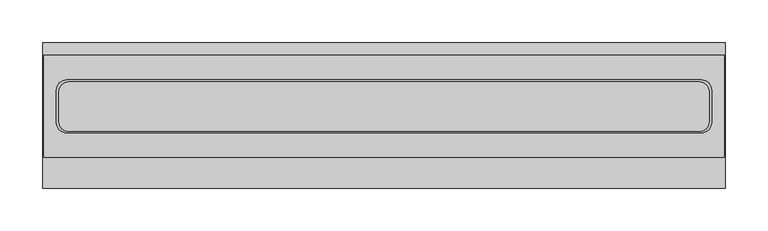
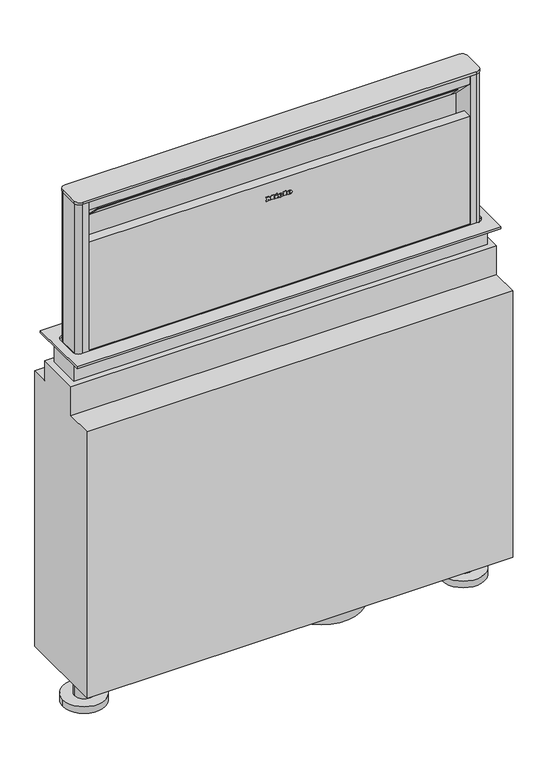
"""IFC4 building model written with IfcOpenShell, lengths in millimetres: proxy geometry, 12934690_D_DAD4870_OBSW : 28D4870B_D_12934690_DAD4870_OBSW."""

import ifcopenshell
import ifcopenshell.guid

model = None  # the IFC model being written
_history = None  # IfcOwnerHistory: only IFC2X3 demands one
_inside = {}  # id of a spatial element -> (the spatial element, [elements in it])
_under = {}  # id of a project, library or spatial element -> (it, [spatial elements below it])
_declared = {}  # id of a project -> (the project, [libraries it declares])
_typed = {}  # id of a type object -> (the type object, [elements of that type])
_made_of = {}  # id of a material, layer set ... -> (it, [elements and type objects made of it])


def new_model(schema):
    """Start an empty IFC model of exactly this schema.

    Asked for "IFC4X3", IfcOpenShell would pick the latest addendum, in which some entities
    have other attributes; the version numbers below select the first issue.
    IFC2X3 requires an IfcOwnerHistory on every rooted entity: one is made here for all.
    """
    global model, _history
    if schema == "IFC4X3":
        model = ifcopenshell.file(schema_version=(4, 3, 0, 0))
    else:
        model = ifcopenshell.file(schema=schema)
    _inside.clear()
    _under.clear()
    _declared.clear()
    _typed.clear()
    _made_of.clear()
    _history = None
    if model.schema == "IFC2X3":
        org = make("IfcOrganization", Name="unknown")
        user = make(
            "IfcPersonAndOrganization",
            ThePerson=make("IfcPerson", FamilyName="unknown"),
            TheOrganization=org,
        )
        app = make(
            "IfcApplication",
            ApplicationDeveloper=org,
            Version="unknown",
            ApplicationFullName="unknown",
            ApplicationIdentifier="unknown",
        )
        _history = make(
            "IfcOwnerHistory",
            OwningUser=user,
            OwningApplication=app,
            ChangeAction="ADDED",
            CreationDate=0,
        )
    return model


def make(cls, **values):
    """One entity of the class cls with the attributes given. An attribute that is None is left unset."""
    return model.create_entity(
        cls, **{name: value for name, value in values.items() if value is not None}
    )


def rooted(cls, **values):
    """An entity with a GlobalId (a new one), such as an element, a storey or a relation."""
    return make(cls, GlobalId=ifcopenshell.guid.new(), OwnerHistory=_history, **values)


def si_unit(unit_type, name, prefix=None):
    """IfcSIUnit, for example si_unit("LENGTHUNIT", "METRE", prefix="MILLI")."""
    return make("IfcSIUnit", UnitType=unit_type, Prefix=prefix, Name=name)


def assignment(units):
    """IfcUnitAssignment: the units of a project."""
    return None if units is None else make("IfcUnitAssignment", Units=units)


def point(xyz):
    """IfcCartesianPoint."""
    return None if xyz is None else make("IfcCartesianPoint", Coordinates=xyz)


def direction(xyz):
    """IfcDirection."""
    return None if xyz is None else make("IfcDirection", DirectionRatios=xyz)


def frame(location, z_axis=None, x_axis=None):
    """IfcAxis2Placement3D, a coordinate frame: its origin and axes. An axis left out is left unset."""
    return make(
        "IfcAxis2Placement3D",
        Location=point(location),
        Axis=direction(z_axis),
        RefDirection=direction(x_axis),
    )


def frame_2d(location, x_axis=None):
    """IfcAxis2Placement2D, a coordinate frame in the plane: its origin and x axis."""
    return make(
        "IfcAxis2Placement2D", Location=point(location), RefDirection=direction(x_axis)
    )


def origin():
    """The frame at (0, 0, 0) with its axes left unset."""
    return frame((0.0, 0.0, 0.0))


def origin_with_axes():
    """The frame at (0, 0, 0) with the z axis (0, 0, 1) and the x axis (1, 0, 0) written out."""
    return frame((0.0, 0.0, 0.0), z_axis=(0.0, 0.0, 1.0), x_axis=(1.0, 0.0, 0.0))


def place(relative_to, where):
    """IfcLocalPlacement: puts the frame where relative to a parent placement (None: the world)."""
    return make(
        "IfcLocalPlacement", PlacementRelTo=relative_to, RelativePlacement=where
    )


def context(
    kind, dimensions, precision=None, world=None, true_north=None, identifier=None
):
    """IfcGeometricRepresentationContext, for example the 3D "Model" context."""
    return make(
        "IfcGeometricRepresentationContext",
        ContextIdentifier=identifier,
        ContextType=kind,
        CoordinateSpaceDimension=dimensions,
        Precision=precision,
        WorldCoordinateSystem=world,
        TrueNorth=true_north,
    )


def project(units=None, contexts=None):
    """IfcProject with its units and contexts."""
    return rooted(
        "IfcProject",
        Name="project",
        RepresentationContexts=contexts,
        UnitsInContext=assignment(units),
    )


def spatial(cls, under=None, at=None, **own):
    """A site, building, storey or space (cls), placed at a placement, below another one or the project."""
    s = rooted(cls, ObjectPlacement=at, **own)
    if under is not None:
        _under.setdefault(under.id(), (under, []))[1].append(s)
    return s


def polyline(points):
    """IfcPolyline through the points."""
    return make("IfcPolyline", Points=[point(p) for p in points])


def circle_curve(where, radius):
    """IfcCircle in the frame where."""
    return make("IfcCircle", Position=where, Radius=radius)


def ellipse_curve(where, semi_axis1, semi_axis2):
    """IfcEllipse in the frame where."""
    return make(
        "IfcEllipse", Position=where, SemiAxis1=semi_axis1, SemiAxis2=semi_axis2
    )


def trimmed(basis, trim1, trim2, sense, master):
    """IfcTrimmedCurve: the piece of a basis curve between two trims."""
    return make(
        "IfcTrimmedCurve",
        BasisCurve=basis,
        Trim1=trim1,
        Trim2=trim2,
        SenseAgreement=sense,
        MasterRepresentation=master,
    )


def segment(curve, same_sense, transition):
    """IfcCompositeCurveSegment."""
    return make(
        "IfcCompositeCurveSegment",
        Transition=transition,
        SameSense=same_sense,
        ParentCurve=curve,
    )


def composite_curve(segments, self_intersect=None):
    """IfcCompositeCurve: segments joined end to end."""
    return make("IfcCompositeCurve", Segments=segments, SelfIntersect=self_intersect)


def outline(outer, holes=None, kind="AREA"):
    """IfcArbitraryClosedProfileDef: a profile drawn as a closed curve; with holes, ...WithVoids."""
    if holes is None:
        return make("IfcArbitraryClosedProfileDef", ProfileType=kind, OuterCurve=outer)
    return make(
        "IfcArbitraryProfileDefWithVoids",
        ProfileType=kind,
        OuterCurve=outer,
        InnerCurves=holes,
    )


def extrude(swept, where, along, depth):
    """IfcExtrudedAreaSolid: the profile swept, set in the frame where, extruded along a direction by depth."""
    return make(
        "IfcExtrudedAreaSolid",
        SweptArea=swept,
        Position=where,
        ExtrudedDirection=direction(along),
        Depth=depth,
    )


def faces_of(points, faces, orient=None, outer=None):
    """IfcFace entities. A face is a list of loops; a loop is a list of indices into points, from 0.

    orient and outer hold one flag for each loop. By default every Orientation is true, the
    first loop of a face is its IfcFaceOuterBound and the others are IfcFaceBound.
    """
    made = []
    for i, loops in enumerate(faces):
        bounds = []
        for j, loop in enumerate(loops):
            is_outer = j == 0 if outer is None else outer[i][j]
            bounds.append(
                make(
                    "IfcFaceOuterBound" if is_outer else "IfcFaceBound",
                    Bound=make("IfcPolyLoop", Polygon=[points[k] for k in loop]),
                    Orientation=True if orient is None else orient[i][j],
                )
            )
        made.append(make("IfcFace", Bounds=bounds))
    return made


def faceted_brep(points, faces, orient=None, outer=None, voids=None):
    """IfcFacetedBrep: a solid bounded by flat faces; with voids (closed shells), ...WithVoids."""
    shared = [point(p) for p in points]
    hull = make("IfcClosedShell", CfsFaces=faces_of(shared, faces, orient, outer))
    if voids is None:
        return make("IfcFacetedBrep", Outer=hull)
    return make(
        "IfcFacetedBrepWithVoids",
        Outer=hull,
        Voids=[
            make(cls, CfsFaces=faces_of(shared, fs, o, b)) for cls, fs, o, b in voids
        ],
    )


def shape(context_of_items, identifier, shape_type, items):
    """IfcShapeRepresentation: the items that make up one representation, for example the "Body"."""
    return make(
        "IfcShapeRepresentation",
        ContextOfItems=context_of_items,
        RepresentationIdentifier=identifier,
        RepresentationType=shape_type,
        Items=items,
    )


def source(mapping_origin, context_of_items, identifier, shape_type, items):
    """IfcRepresentationMap: a shape defined once, which mapped items show again and again."""
    return make(
        "IfcRepresentationMap",
        MappingOrigin=mapping_origin,
        MappedRepresentation=shape(context_of_items, identifier, shape_type, items),
    )


def transform(
    local_origin,
    x_axis=None,
    y_axis=None,
    z_axis=None,
    scale=None,
    scale2=None,
    scale3=None,
    uniform=True,
):
    """IfcCartesianTransformationOperator3D, or its non-uniform kind. x_axis, y_axis, z_axis: its Axis1, 2, 3."""
    if uniform:
        return make(
            "IfcCartesianTransformationOperator3D",
            Axis1=direction(x_axis),
            Axis2=direction(y_axis),
            LocalOrigin=point(local_origin),
            Scale=scale,
            Axis3=direction(z_axis),
        )
    return make(
        "IfcCartesianTransformationOperator3DnonUniform",
        Axis1=direction(x_axis),
        Axis2=direction(y_axis),
        LocalOrigin=point(local_origin),
        Scale=scale,
        Axis3=direction(z_axis),
        Scale2=scale2,
        Scale3=scale3,
    )


def mapped(mapping_source, mapping_target):
    """IfcMappedItem: shows the shape of a source again, moved by a transform."""
    return make(
        "IfcMappedItem", MappingSource=mapping_source, MappingTarget=mapping_target
    )


def made_of(thing, what):
    """Note that an element or type object is made of a material, layer set ...; save() writes the relation."""
    if what is not None:
        _made_of.setdefault(what.id(), (what, []))[1].append(thing)
    return thing


def element(
    cls,
    number,
    at=None,
    inside=None,
    cuts=None,
    type_object=None,
    material=None,
    context=None,
    identifier="Body",
    shape_type=None,
    held_by="IfcProductDefinitionShape",
    body=None,
    shapes=None,
    **own,
):
    """One element of the class cls, such as IfcWall. Its Tag is "e" and its number.

    at: its placement. inside: the storey or other place that contains it. cuts: it is an
    opening in that element (IfcRelVoidsElement). A single representation is given by context,
    identifier, shape_type and body (its items); several are given by shapes. held_by: the class
    of the entity that holds the representations. save() writes the other relations.
    """
    e = rooted(cls, Tag="e%d" % number, ObjectPlacement=at, **own)
    if body is not None:
        shapes = [shape(context, identifier, shape_type, body)]
    if shapes is not None:
        e.Representation = make(held_by, Representations=shapes)
    if inside is not None:
        _inside.setdefault(inside.id(), (inside, []))[1].append(e)
    if cuts is not None:
        rooted(
            "IfcRelVoidsElement", RelatingBuildingElement=cuts, RelatedOpeningElement=e
        )
    if type_object is not None:
        _typed.setdefault(type_object.id(), (type_object, []))[1].append(e)
    return made_of(e, material)


def aggregate(whole, parts):
    """IfcRelAggregates: a whole, such as a stair, and the parts it consists of."""
    return rooted("IfcRelAggregates", RelatingObject=whole, RelatedObjects=parts)


def save(model, path):
    """Write the relations noted so far, then the file.

    IfcRelAggregates (storeys below a building ...), IfcRelContainedInSpatialStructure (elements
    in a storey), IfcRelDefinesByType, IfcRelAssociatesMaterial and IfcRelDeclares: one each for
    every whole, place, type object, material and project.
    """
    for whole, parts in _under.values():
        aggregate(whole, parts)
    for where, things in _inside.values():
        rooted(
            "IfcRelContainedInSpatialStructure",
            RelatedElements=things,
            RelatingStructure=where,
        )
    for kind, things in _typed.values():
        rooted("IfcRelDefinesByType", RelatedObjects=things, RelatingType=kind)
    for what, things in _made_of.values():
        rooted("IfcRelAssociatesMaterial", RelatedObjects=things, RelatingMaterial=what)
    for by, libraries in _declared.values():
        rooted("IfcRelDeclares", RelatingContext=by, RelatedDefinitions=libraries)
    model.write(path)


def plane_surface(at):
    """IfcPlane: the flat surface through the origin of the frame at, square to its z axis."""
    return make("IfcPlane", Position=at)


def cylinder_surface(at, radius):
    """IfcCylindricalSurface: all points at the distance radius from the z axis of the frame at."""
    return make("IfcCylindricalSurface", Position=at, Radius=radius)


def revolved_surface(curve, axis_point, axis_direction):
    """IfcSurfaceOfRevolution: the curve turned about the line through axis_point along axis_direction."""
    return make(
        "IfcSurfaceOfRevolution",
        SweptCurve=make("IfcArbitraryOpenProfileDef", ProfileType="CURVE", Curve=curve),
        AxisPosition=make("IfcAxis1Placement", Location=point(axis_point), Axis=direction(axis_direction)),
    )


def extruded_surface(curve, direction_of_extrusion, depth):
    """IfcSurfaceOfLinearExtrusion: the curve pushed along a direction by depth."""
    return make(
        "IfcSurfaceOfLinearExtrusion",
        SweptCurve=make("IfcArbitraryOpenProfileDef", ProfileType="CURVE", Curve=curve),
        ExtrudedDirection=direction(direction_of_extrusion),
        Depth=depth,
    )


def advanced_brep(points, edges, surfaces, faces):
    """IfcAdvancedBrep: a solid bounded by faces that lie on surfaces and meet in shared edges.

    An edge is (start, end): straight between two places in points (the first is 0);
    or (start, end, curve); or (start, end, curve, False) where it runs against its curve.
    A face is (place in surfaces, loops), or (place, loops, False) where it looks against
    its surface's normal. A loop lists edges by number (the first is 1), with a minus sign
    where the edge is run from its end to its start. The first loop is the outer one.
    """
    corners = [point(p) for p in points]
    vertices = [make("IfcVertexPoint", VertexGeometry=c) for c in corners]
    made = []
    for start, end, *more in edges:
        made.append(
            make(
                "IfcEdgeCurve",
                EdgeStart=vertices[start],
                EdgeEnd=vertices[end],
                EdgeGeometry=more[0] if more else make("IfcPolyline", Points=[corners[start], corners[end]]),
                SameSense=more[1] if len(more) > 1 else True,
            )
        )
    hull = []
    for where, loops, *sense in faces:
        bounds = []
        for j, loop in enumerate(loops):
            ring = [make("IfcOrientedEdge", EdgeElement=made[abs(k) - 1], Orientation=k > 0) for k in loop]
            bounds.append(
                make(
                    "IfcFaceOuterBound" if j == 0 else "IfcFaceBound",
                    Bound=make("IfcEdgeLoop", EdgeList=ring),
                    Orientation=True,
                )
            )
        hull.append(make("IfcAdvancedFace", Bounds=bounds, FaceSurface=surfaces[where], SameSense=sense[0] if sense else True))
    return make("IfcAdvancedBrep", Outer=make("IfcClosedShell", CfsFaces=hull))


def specialty_equipment_19cf30e8(model_context):
    return source(origin(), model_context, "Body", "SolidModel", [
        extrude(outline(polyline([(190.696, -25.0), (190.696, -24.032), (185.344, -24.032), (185.344, -25.0), (184.0, -25.0), (184.0, -21.48), (185.344, -21.48), (185.344, -22.44), (188.7471247, -22.44), (184.0, -18.864), (188.8152223, -15.272), (185.344, -15.272), (185.344, -16.256), (184.0, -16.256), (184.0, -9.872), (185.344, -9.872), (185.344, -10.888), (190.696, -10.888), (190.696, -9.872), (192.0, -9.872), (192.0, -14.744), (189.0, -17.08), (192.0, -19.424), (192.0, -25.0), (190.696, -25.0)])), frame((0.0, -104.0, 0.0), z_axis=(0.0, 1.0, 0.0), x_axis=(0.0, 0.0, 1.0)), (0.0, 0.0, 1.0), 1.0),
        extrude(outline(polyline([(190.696, 7.464), (190.696, 8.424), (185.344, 8.424), (185.344, 7.464), (184.0, 7.464), (184.0, 13.952), (185.344, 13.952), (185.344, 12.968), (192.0, 12.968), (192.0, 7.464), (190.696, 7.464)])), frame((0.0, -104.0, 0.0), z_axis=(0.0, 1.0, 0.0), x_axis=(0.0, 0.0, 1.0)), (0.0, 0.0, 1.0), 1.0),
        extrude(outline(polyline([(191.528, -7.08), (190.232, -6.472), (191.496, -3.76), (192.792, -4.36), (191.528, -7.08)])), frame((0.0, -104.0, 0.0), z_axis=(0.0, 1.0, 0.0), x_axis=(0.0, 0.0, 1.0)), (0.0, 0.0, 1.0), 1.0),
        extrude(outline(polyline([(190.056, -9.056), (188.624, -9.056), (188.624, -8.104), (185.344, -8.104), (185.344, -9.056), (184.0, -9.056), (184.0, -2.744), (185.344, -2.744), (185.344, -3.672), (190.056, -3.672), (190.056, -9.056)])), frame((0.0, -104.0, 0.0), z_axis=(0.0, 1.0, 0.0), x_axis=(0.0, 0.0, 1.0)), (0.0, 0.0, 1.0), 1.0),
        advanced_brep(
        [(1.664, -104.0, 185.896), (1.664, -104.0, 186.704), (7.016, -104.0, 186.704), (-2.296, -104.0, 186.704), (-0.096, -104.0, 184.0), (6.88, -104.0, 185.896), (4.464, -104.0, 185.896), (2.56, -104.0, 185.0), (1.664, -104.0, 187.728), (1.664, -104.0, 188.6), (3.032, -104.0, 188.6), (3.032, -104.0, 187.728), (1.664, -103.0, 185.896), (2.56, -103.0, 185.0), (4.464, -103.0, 185.896), (6.88, -103.0, 185.896), (-0.096, -103.0, 184.0), (-2.296, -103.0, 186.704), (7.016, -103.0, 186.704), (1.664, -103.0, 186.704), (1.664, -103.0, 187.728), (3.032, -103.0, 187.728), (3.032, -103.0, 188.6), (1.664, -103.0, 188.6)],
        [
            (0, 1),
            (1, 2),
            (2, 3, ellipse_curve(frame((2.36, -104.0, 186.704), z_axis=(0.0, -1.0, 0.0), x_axis=(-1.0, 0.0, 0.0)), 4.656, 3.848)),
            (3, 4, circle_curve(frame((0.8000436, -104.0, 186.976), z_axis=(0.0, -1.0, 0.0), x_axis=(0.0, 0.0, -1.0)), 3.1079688)),
            (4, 5, circle_curve(frame((2.2667936, -104.0, 189.088), z_axis=(0.0, -1.0, 0.0), x_axis=(0.0, 0.0, -1.0)), 5.6098607)),
            (5, 6),
            (6, 7, circle_curve(frame((2.9510588, -104.0, 186.64), z_axis=(0.0, 1.0, 0.0), x_axis=(0.0, 0.0, -1.0)), 1.6859795)),
            (7, 0, circle_curve(frame((2.56, -104.0, 185.896), z_axis=(0.0, 1.0, 0.0), x_axis=(0.0, 0.0, -1.0)), 0.896)),
            (8, 9),
            (9, 10, circle_curve(frame((2.348, -104.0, 188.6), z_axis=(0.0, 1.0, 0.0), x_axis=(0.0, 0.0, -1.0)), 0.684)),
            (10, 11),
            (11, 8),
            (12, 13, circle_curve(frame((2.56, -103.0, 185.896), z_axis=(0.0, -1.0, 0.0), x_axis=(0.0, 0.0, -1.0)), 0.896)),
            (13, 14, circle_curve(frame((2.9510588, -103.0, 186.64), z_axis=(0.0, -1.0, 0.0), x_axis=(0.0, 0.0, -1.0)), 1.6859795)),
            (14, 15),
            (15, 16, circle_curve(frame((2.2667936, -103.0, 189.088), z_axis=(0.0, 1.0, 0.0), x_axis=(0.0, 0.0, -1.0)), 5.6098607)),
            (16, 17, circle_curve(frame((0.8000436, -103.0, 186.976), z_axis=(0.0, 1.0, 0.0), x_axis=(0.0, 0.0, -1.0)), 3.1079688)),
            (17, 18, ellipse_curve(frame((2.36, -103.0, 186.704), z_axis=(0.0, 1.0, 0.0), x_axis=(-1.0, 0.0, 0.0)), 4.656, 3.848)),
            (18, 19),
            (19, 12),
            (20, 21),
            (21, 22),
            (22, 23, circle_curve(frame((2.348, -103.0, 188.6), z_axis=(0.0, -1.0, 0.0), x_axis=(0.0, 0.0, -1.0)), 0.684)),
            (23, 20),
            (0, 12),
            (19, 1),
            (18, 2),
            (5, 15),
            (14, 6),
            (17, 3),
            (13, 7),
            (16, 4),
            (8, 20),
            (23, 9),
            (22, 10),
            (21, 11),
        ],
        [
            plane_surface(frame((1.664, -104.0, 186.704), z_axis=(0.0, -1.0, 0.0), x_axis=(0.0, 0.0, 1.0))),
            plane_surface(frame((1.664, -103.0, 186.704), z_axis=(0.0, 1.0, 0.0), x_axis=(0.0, 0.0, -1.0))),
            plane_surface(frame((1.664, -104.0, 185.896), z_axis=(1.0, 0.0, 0.0), x_axis=(0.0, 1.0, 0.0))),
            plane_surface(frame((1.664, -104.0, 186.704), z_axis=(0.0, 0.0, -1.0), x_axis=(0.0, 1.0, 0.0))),
            plane_surface(frame((6.88, -104.0, 185.896), z_axis=(0.0, 0.0, 1.0), x_axis=(0.0, 1.0, 0.0))),
            extruded_surface(trimmed(ellipse_curve(frame((2.36, -102.0, 186.704), z_axis=(0.0, -1.0, 0.0), x_axis=(-1.0, 0.0, 0.0)), 4.656, 3.848), [point((7.016, -102.0, 186.704))], [point((-2.296, -102.0, 186.704))], True, "CARTESIAN"), (0.0, -1.0, 0.0), 1.0),
            revolved_surface(polyline([(2.9510588, -103.0, 184.95402049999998), (2.9510588, -104.0, 184.95402049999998)]), (2.9510588, -103.0, 186.64), (0.0, 1.0, 0.0)),
            revolved_surface(polyline([(2.56, -103.0, 185.0), (2.56, -104.0, 185.0)]), (2.56, -103.0, 185.896), (0.0, 1.0, 0.0)),
            cylinder_surface(frame((0.8000436, -103.0, 186.976), z_axis=(0.0, -1.0, 0.0), x_axis=(0.0, 0.0, -1.0)), 3.1079688),
            cylinder_surface(frame((2.2667936, -103.0, 189.088), z_axis=(0.0, -1.0, 0.0), x_axis=(0.0, 0.0, -1.0)), 5.6098607),
            plane_surface(frame((1.664, -104.0, 187.728), z_axis=(1.0, 0.0, 0.0), x_axis=(0.0, 1.0, 0.0))),
            revolved_surface(polyline([(2.348, -103.0, 187.916), (2.348, -104.0, 187.916)]), (2.348, -103.0, 188.6), (0.0, 1.0, 0.0)),
            plane_surface(frame((3.032, -104.0, 188.6), z_axis=(-1.0, 0.0, 0.0), x_axis=(0.0, 1.0, 0.0))),
            plane_surface(frame((3.032, -104.0, 187.728), z_axis=(0.0, 0.0, 1.0), x_axis=(0.0, 1.0, 0.0))),
        ],
        [
            (0, [[1, 2, 3, 4, 5, 6, 7, 8], [9, 10, 11, 12]]),
            (1, [[13, 14, 15, 16, 17, 18, 19, 20], [21, 22, 23, 24]]),
            (2, [[-1, 25, -20, 26]]),
            (3, [[-2, -26, -19, 27]]),
            (4, [[-6, 28, -15, 29]]),
            (5, [[-3, -27, -18, 30]]),
            (6, [[-7, -29, -14, 31]]),
            (7, [[-8, -31, -13, -25]]),
            (8, [[-4, -30, -17, 32]]),
            (9, [[-5, -32, -16, -28]]),
            (10, [[-9, 33, -24, 34]]),
            (11, [[-10, -34, -23, 35]]),
            (12, [[-11, -35, -22, 36]]),
            (13, [[-12, -36, -21, -33]]),
        ],
    ),
        advanced_brep(
        [(18.36, -104.0, 185.896), (18.36, -104.0, 186.704), (23.712, -104.0, 186.704), (14.4, -104.0, 186.704), (16.6, -104.0, 184.0), (23.576, -104.0, 185.896), (21.16, -104.0, 185.896), (19.256, -104.0, 185.0), (18.36, -104.0, 187.728), (18.36, -104.0, 188.6), (19.728, -104.0, 188.6), (19.728, -104.0, 187.728), (18.36, -103.0, 185.896), (19.256, -103.0, 185.0), (21.16, -103.0, 185.896), (23.576, -103.0, 185.896), (16.6, -103.0, 184.0), (14.4, -103.0, 186.704), (23.712, -103.0, 186.704), (18.36, -103.0, 186.704), (18.36, -103.0, 187.728), (19.728, -103.0, 187.728), (19.728, -103.0, 188.6), (18.36, -103.0, 188.6)],
        [
            (0, 1),
            (1, 2),
            (2, 3, ellipse_curve(frame((19.056, -104.0, 186.704), z_axis=(0.0, -1.0, 0.0), x_axis=(-1.0, 0.0, 0.0)), 4.656, 3.848)),
            (3, 4, circle_curve(frame((17.4960436, -104.0, 186.976), z_axis=(0.0, -1.0, 0.0), x_axis=(0.0, 0.0, -1.0)), 3.1079688)),
            (4, 5, circle_curve(frame((18.9627936, -104.0, 189.088), z_axis=(0.0, -1.0, 0.0), x_axis=(0.0, 0.0, -1.0)), 5.6098607)),
            (5, 6),
            (6, 7, circle_curve(frame((19.6470588, -104.0, 186.64), z_axis=(0.0, 1.0, 0.0), x_axis=(0.0, 0.0, -1.0)), 1.6859795)),
            (7, 0, circle_curve(frame((19.256, -104.0, 185.896), z_axis=(0.0, 1.0, 0.0), x_axis=(0.0, 0.0, -1.0)), 0.896)),
            (8, 9),
            (9, 10, circle_curve(frame((19.044, -104.0, 188.6), z_axis=(0.0, 1.0, 0.0), x_axis=(0.0, 0.0, -1.0)), 0.684)),
            (10, 11),
            (11, 8),
            (12, 13, circle_curve(frame((19.256, -103.0, 185.896), z_axis=(0.0, -1.0, 0.0), x_axis=(0.0, 0.0, -1.0)), 0.896)),
            (13, 14, circle_curve(frame((19.6470588, -103.0, 186.64), z_axis=(0.0, -1.0, 0.0), x_axis=(0.0, 0.0, -1.0)), 1.6859795)),
            (14, 15),
            (15, 16, circle_curve(frame((18.9627936, -103.0, 189.088), z_axis=(0.0, 1.0, 0.0), x_axis=(0.0, 0.0, -1.0)), 5.6098607)),
            (16, 17, circle_curve(frame((17.4960436, -103.0, 186.976), z_axis=(0.0, 1.0, 0.0), x_axis=(0.0, 0.0, -1.0)), 3.1079688)),
            (17, 18, ellipse_curve(frame((19.056, -103.0, 186.704), z_axis=(0.0, 1.0, 0.0), x_axis=(-1.0, 0.0, 0.0)), 4.656, 3.848)),
            (18, 19),
            (19, 12),
            (20, 21),
            (21, 22),
            (22, 23, circle_curve(frame((19.044, -103.0, 188.6), z_axis=(0.0, -1.0, 0.0), x_axis=(0.0, 0.0, -1.0)), 0.684)),
            (23, 20),
            (0, 12),
            (19, 1),
            (18, 2),
            (5, 15),
            (14, 6),
            (17, 3),
            (13, 7),
            (16, 4),
            (8, 20),
            (23, 9),
            (22, 10),
            (21, 11),
        ],
        [
            plane_surface(frame((18.36, -104.0, 186.704), z_axis=(0.0, -1.0, 0.0), x_axis=(0.0, 0.0, 1.0))),
            plane_surface(frame((18.36, -103.0, 186.704), z_axis=(0.0, 1.0, 0.0), x_axis=(0.0, 0.0, -1.0))),
            plane_surface(frame((18.36, -104.0, 185.896), z_axis=(1.0, 0.0, 0.0), x_axis=(0.0, 1.0, 0.0))),
            plane_surface(frame((18.36, -104.0, 186.704), z_axis=(0.0, 0.0, -1.0), x_axis=(0.0, 1.0, 0.0))),
            plane_surface(frame((23.576, -104.0, 185.896), z_axis=(0.0, 0.0, 1.0), x_axis=(0.0, 1.0, 0.0))),
            extruded_surface(trimmed(ellipse_curve(frame((19.056, -102.0, 186.704), z_axis=(0.0, -1.0, 0.0), x_axis=(-1.0, 0.0, 0.0)), 4.656, 3.848), [point((23.712, -102.0, 186.704))], [point((14.4, -102.0, 186.704))], True, "CARTESIAN"), (0.0, -1.0, 0.0), 1.0),
            revolved_surface(polyline([(19.6470588, -103.0, 184.95402049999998), (19.6470588, -104.0, 184.95402049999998)]), (19.6470588, -103.0, 186.64), (0.0, 1.0, 0.0)),
            revolved_surface(polyline([(19.256, -103.0, 185.0), (19.256, -104.0, 185.0)]), (19.256, -103.0, 185.896), (0.0, 1.0, 0.0)),
            cylinder_surface(frame((17.4960436, -103.0, 186.976), z_axis=(0.0, -1.0, 0.0), x_axis=(0.0, 0.0, -1.0)), 3.1079688),
            cylinder_surface(frame((18.9627936, -103.0, 189.088), z_axis=(0.0, -1.0, 0.0), x_axis=(0.0, 0.0, -1.0)), 5.6098607),
            plane_surface(frame((18.36, -104.0, 187.728), z_axis=(1.0, 0.0, 0.0), x_axis=(0.0, 1.0, 0.0))),
            revolved_surface(polyline([(19.044, -103.0, 187.916), (19.044, -104.0, 187.916)]), (19.044, -103.0, 188.6), (0.0, 1.0, 0.0)),
            plane_surface(frame((19.728, -104.0, 188.6), z_axis=(-1.0, 0.0, 0.0), x_axis=(0.0, 1.0, 0.0))),
            plane_surface(frame((19.728, -104.0, 187.728), z_axis=(0.0, 0.0, 1.0), x_axis=(0.0, 1.0, 0.0))),
        ],
        [
            (0, [[1, 2, 3, 4, 5, 6, 7, 8], [9, 10, 11, 12]]),
            (1, [[13, 14, 15, 16, 17, 18, 19, 20], [21, 22, 23, 24]]),
            (2, [[-1, 25, -20, 26]]),
            (3, [[-2, -26, -19, 27]]),
            (4, [[-6, 28, -15, 29]]),
            (5, [[-3, -27, -18, 30]]),
            (6, [[-7, -29, -14, 31]]),
            (7, [[-8, -31, -13, -25]]),
            (8, [[-4, -30, -17, 32]]),
            (9, [[-5, -32, -16, -28]]),
            (10, [[-9, 33, -24, 34]]),
            (11, [[-10, -34, -23, 35]]),
            (12, [[-11, -35, -22, 36]]),
            (13, [[-12, -36, -21, -33]]),
        ],
    ),
        extrude(outline(composite_curve([segment(trimmed(circle_curve(frame_2d((89.2, -85.8647958)), 75.0), [point((14.2, -85.8647958))], [point((164.2, -85.8647958))], False, "CARTESIAN"), True, "CONTINUOUS"), segment(trimmed(circle_curve(frame_2d((89.2, -85.8647958)), 75.0), [point((164.2, -85.8647958))], [point((14.2, -85.8647958))], False, "CARTESIAN"), True, "CONTINUOUS")], self_intersect=False)), frame((0.0, 0.0, -659.0), z_axis=(0.0, 0.0, 1.0), x_axis=(1.0, 0.0, 0.0)), (0.0, 0.0, 1.0), 25.0),
        extrude(outline(composite_curve([segment(trimmed(circle_curve(frame_2d((371.1814118, -57.4008786)), 11.0228003), [point((371.1814118, -46.3780783))], [point((382.2042121, -57.4008786))], False, "CARTESIAN"), True, "CONTINUOUS"), segment(polyline([(382.2042121, -57.4008786), (382.2042121, -93.3997352)]), True, "CONTINUOUS"), segment(trimmed(circle_curve(frame_2d((371.225869, -93.3997352)), 10.9783431), [point((382.2042121, -93.3997352))], [point((371.225869, -104.3780783))], False, "CARTESIAN"), True, "CONTINUOUS"), segment(polyline([(371.225869, -104.3780783), (-371.2377642, -104.3780783)]), True, "CONTINUOUS"), segment(trimmed(circle_curve(frame_2d((-371.2377642, -93.4116304)), 10.9664479), [point((-371.2377642, -104.3780783))], [point((-382.2042121, -93.4116304))], False, "CARTESIAN"), True, "CONTINUOUS"), segment(polyline([(-382.2042121, -93.4116304), (-382.2042121, -57.3636674)]), True, "CONTINUOUS"), segment(trimmed(circle_curve(frame_2d((-371.218623, -57.3636674)), 10.9855891), [point((-382.2042121, -57.3636674))], [point((-371.218623, -46.3780783))], False, "CARTESIAN"), True, "CONTINUOUS"), segment(polyline([(-371.218623, -46.3780783), (371.1814118, -46.3780783)]), True, "CONTINUOUS")], self_intersect=False)), frame((0.0, 0.0, 299.5725648), z_axis=(0.0, 0.0, 1.0), x_axis=(1.0, 0.0, 0.0)), (0.0, 0.0, 1.0), 4.4274352),
        advanced_brep(
        [(371.2042121, -47.3780783, 299.5725648), (-371.2042121, -47.3780783, 299.5725648), (-381.2042121, -57.3780783, 299.5725648), (-381.2042121, -93.3780783, 299.5725648), (-371.2042121, -103.3780783, 299.5725648), (-359.9100986, -103.3780783, 299.5725648), (-359.9100986, -103.1609893, 299.5725648), (359.9100986, -103.1609893, 299.5725648), (359.9100986, -103.3780783, 299.5725648), (371.2042121, -103.3780783, 299.5725648), (381.2042121, -93.3780783, 299.5725648), (381.2042121, -57.3780783, 299.5725648), (371.2042121, -47.3780783, 0.0), (381.2042121, -57.3780783, 0.0), (381.2042121, -93.3780783, 0.0), (371.2042121, -103.3780783, 0.0), (-371.2042121, -103.3780783, 0.0), (-381.2042121, -93.3780783, 0.0), (-381.2042121, -57.3780783, 0.0), (-371.2042121, -47.3780783, 0.0), (359.9100986, -103.3780783, 4.0), (-359.9100986, -103.3780783, 4.0), (359.9100986, -58.0, 237.9815659), (359.9100986, -58.0, 147.0), (359.9100986, -79.1055209, 147.0), (359.9100986, -85.0, 219.0), (359.9100986, -103.1609893, 219.0), (359.9100986, -103.1609893, 4.0), (359.9100986, -103.1609893, 283.1425552), (-359.9100986, -85.0, 219.0), (-359.9100986, -79.1055209, 147.0), (-359.9100986, -58.0, 147.0), (-359.9100986, -58.0, 237.9815659), (-359.9100986, -103.1609893, 283.1425552), (-359.9100986, -103.1609893, 4.0), (-359.9100986, -103.1609893, 219.0)],
        [
            (0, 1),
            (1, 2, circle_curve(frame((-371.2042121, -57.3780783, 299.5725648), z_axis=(0.0, 0.0, 1.0), x_axis=(1.0, 0.0, 0.0)), 10.0)),
            (2, 3),
            (3, 4, circle_curve(frame((-371.2042121, -93.3780783, 299.5725648), z_axis=(0.0, 0.0, 1.0), x_axis=(1.0, 0.0, 0.0)), 10.0)),
            (4, 5),
            (5, 6),
            (6, 7),
            (7, 8),
            (8, 9),
            (9, 10, circle_curve(frame((371.2042121, -93.3780783, 299.5725648), z_axis=(0.0, 0.0, 1.0), x_axis=(1.0, 0.0, 0.0)), 10.0)),
            (10, 11),
            (11, 0, circle_curve(frame((371.2042121, -57.3780783, 299.5725648), z_axis=(0.0, 0.0, 1.0), x_axis=(1.0, 0.0, 0.0)), 10.0)),
            (12, 13, circle_curve(frame((371.2042121, -57.3780783, 0.0), z_axis=(0.0, 0.0, -1.0), x_axis=(1.0, 0.0, 0.0)), 10.0)),
            (13, 14),
            (14, 15, circle_curve(frame((371.2042121, -93.3780783, 0.0), z_axis=(0.0, 0.0, -1.0), x_axis=(1.0, 0.0, 0.0)), 10.0)),
            (15, 16),
            (16, 17, circle_curve(frame((-371.2042121, -93.3780783, 0.0), z_axis=(0.0, 0.0, -1.0), x_axis=(1.0, 0.0, 0.0)), 10.0)),
            (17, 18),
            (18, 19, circle_curve(frame((-371.2042121, -57.3780783, 0.0), z_axis=(0.0, 0.0, -1.0), x_axis=(1.0, 0.0, 0.0)), 10.0)),
            (19, 12),
            (0, 12),
            (19, 1),
            (2, 18),
            (17, 3),
            (15, 9),
            (8, 20),
            (20, 21),
            (21, 5),
            (4, 16),
            (10, 14),
            (13, 11),
            (22, 23),
            (23, 24),
            (24, 25),
            (25, 26),
            (26, 27),
            (27, 20),
            (7, 28),
            (28, 22),
            (29, 30),
            (30, 31),
            (31, 32),
            (32, 33),
            (33, 6),
            (21, 34),
            (34, 35),
            (35, 29),
            (32, 22),
            (28, 33),
            (25, 29),
            (35, 26),
            (24, 30),
            (23, 31),
            (34, 27),
        ],
        [
            plane_surface(frame((-371.2042121, -47.3780783, 299.5725648), z_axis=(0.0, 0.0, 1.0), x_axis=(-1.0, 0.0, 0.0))),
            plane_surface(frame((-371.2042121, -47.3780783, 0.0), z_axis=(0.0, 0.0, -1.0), x_axis=(1.0, 0.0, 0.0))),
            plane_surface(frame((371.2042121, -47.3780783, 299.5725648), z_axis=(0.0, 1.0, 0.0), x_axis=(0.0, 0.0, -1.0))),
            plane_surface(frame((-381.2042121, -57.3780783, 299.5725648), z_axis=(-1.0, 0.0, 0.0), x_axis=(0.0, 0.0, -1.0))),
            plane_surface(frame((-371.2042121, -103.3780783, 299.5725648), z_axis=(0.0, -1.0, 0.0), x_axis=(0.0, 0.0, -1.0))),
            plane_surface(frame((381.2042121, -93.3780783, 299.5725648), z_axis=(1.0, 0.0, 0.0), x_axis=(0.0, 0.0, -1.0))),
            cylinder_surface(frame((-371.2042121, -57.3780783, 0.0), z_axis=(0.0, 0.0, 1.0), x_axis=(1.0, 0.0, 0.0)), 10.0),
            cylinder_surface(frame((-371.2042121, -93.3780783, 0.0), z_axis=(0.0, 0.0, 1.0), x_axis=(1.0, 0.0, 0.0)), 10.0),
            cylinder_surface(frame((371.2042121, -93.3780783, 0.0), z_axis=(0.0, 0.0, 1.0), x_axis=(1.0, 0.0, 0.0)), 10.0),
            cylinder_surface(frame((371.2042121, -57.3780783, 0.0), z_axis=(0.0, 0.0, 1.0), x_axis=(1.0, 0.0, 0.0)), 10.0),
            plane_surface(frame((359.9100986, -94.4708552, 274.4524211), z_axis=(-1.0, 0.0, 0.0), x_axis=(0.0, -0.7071067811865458, 0.7071067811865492))),
            plane_surface(frame((-359.9100986, -94.4708552, 274.4524211), z_axis=(1.0, 0.0, 0.0), x_axis=(0.0, 0.7071067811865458, -0.7071067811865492))),
            plane_surface(frame((359.9100986, -58.0, 237.9815659), z_axis=(0.0, -0.7071067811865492, -0.7071067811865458), x_axis=(-1.0, 0.0, 0.0))),
            plane_surface(frame((359.9100986, -103.3780783, 219.0), z_axis=(0.0, 0.0, 1.0), x_axis=(-1.0, 0.0, 0.0))),
            plane_surface(frame((359.9100986, -85.0, 219.0), z_axis=(0.0, 0.9966655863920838, 0.08159478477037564), x_axis=(-1.0, 0.0, 0.0))),
            plane_surface(frame((359.9100986, -79.1055209, 147.0), z_axis=(0.0, 0.0, 1.0), x_axis=(-1.0, 0.0, 0.0))),
            plane_surface(frame((359.9100986, -58.0, 147.0), z_axis=(0.0, -1.0, 0.0), x_axis=(-1.0, 0.0, 0.0))),
            plane_surface(frame((268.1830979, -103.1609893, 4.0), z_axis=(0.0, -1.0, 0.0), x_axis=(-1.0, 0.0, 0.0))),
            plane_surface(frame((-359.9100986, -103.3780783, 4.0), z_axis=(0.0, 0.0, 1.0), x_axis=(0.0, 1.0, 0.0))),
        ],
        [
            (0, [[1, 2, 3, 4, 5, 6, 7, 8, 9, 10, 11, 12]]),
            (1, [[13, 14, 15, 16, 17, 18, 19, 20]]),
            (2, [[-1, 21, -20, 22]]),
            (3, [[-3, 23, -18, 24]]),
            (4, [[-16, 25, -9, 26, 27, 28, -5, 29]]),
            (5, [[-11, 30, -14, 31]]),
            (6, [[-2, -22, -19, -23]]),
            (7, [[-4, -24, -17, -29]]),
            (8, [[-10, -25, -15, -30]]),
            (9, [[-12, -31, -13, -21]]),
            (10, [[32, 33, 34, 35, 36, 37, -26, -8, 38, 39]]),
            (11, [[40, 41, 42, 43, 44, -6, -28, 45, 46, 47]]),
            (12, [[48, -39, 49, -43]]),
            (13, [[50, -47, 51, -35]]),
            (14, [[-34, 52, -40, -50]]),
            (15, [[-33, 53, -41, -52]]),
            (16, [[-32, -48, -42, -53]]),
            (17, [[-38, -7, -44, -49]]),
            (17, [[54, -36, -51, -46]]),
            (18, [[-54, -45, -27, -37]]),
        ],
    ),
        faceted_brep([(401.4936189, -32.3, -45.0), (-401.4936189, -32.3, -45.0), (-401.4936189, -117.7, -45.0), (401.4936189, -117.7, -45.0), (-390.0, -43.0, -45.0), (390.0, -43.0, -45.0), (390.0, -107.0, -45.0), (-390.0, -107.0, -45.0), (401.4936189, 0.0, -634.0), (401.4936189, -171.0, -634.0), (-401.4936189, -171.0, -634.0), (-401.4936189, 0.0, -634.0), (-401.4936189, 0.0, -85.0), (401.4936189, 0.0, -85.0), (401.4936189, -171.0, -103.0), (-401.4936189, -171.0, -103.0), (390.0, -43.0, 0.0), (-390.0, -43.0, 0.0), (-390.0, -107.0, 0.0), (390.0, -107.0, 0.0), (-401.4936189, -117.7, -103.0), (-401.4936189, -32.3, -85.0), (401.4936189, -32.3, -85.0), (401.4936189, -117.7, -103.0)], [[[0, 1, 2, 3], [4, 5, 6, 7]], [[8, 9, 10, 11]], [[8, 11, 12, 13]], [[10, 9, 14, 15]], [[16, 17, 18, 19]], [[17, 16, 5, 4]], [[18, 17, 4, 7]], [[19, 18, 7, 6]], [[16, 19, 6, 5]], [[11, 10, 15, 20, 2, 1, 21, 12]], [[9, 8, 13, 22, 0, 3, 23, 14]], [[23, 20, 15, 14]], [[20, 23, 3, 2]], [[22, 21, 1, 0]], [[21, 22, 13, 12]]]),
        extrude(outline(polyline([(400.0, -15.0), (400.0, -135.0), (-400.0, -135.0), (-400.0, -15.0), (400.0, -15.0)]), holes=[composite_curve([segment(polyline([(373.1343386, -44.0), (-373.0956327, -44.0)]), True, "CONTINUOUS"), segment(trimmed(circle_curve(frame_2d((-373.0956327, -56.0)), 12.0), [point((-373.0956327, -44.0))], [point((-385.0956327, -56.0))], True, "CARTESIAN"), True, "CONTINUOUS"), segment(polyline([(-385.0956327, -56.0), (-385.0956327, -94.0)]), True, "CONTINUOUS"), segment(trimmed(circle_curve(frame_2d((-373.0956327, -94.0)), 12.0), [point((-385.0956327, -94.0))], [point((-373.0956327, -106.0))], True, "CARTESIAN"), True, "CONTINUOUS"), segment(polyline([(-373.0956327, -106.0), (373.0753112, -106.0)]), True, "CONTINUOUS"), segment(trimmed(circle_curve(frame_2d((373.0753112, -93.9796784)), 12.0203216), [point((373.0753112, -106.0))], [point((385.0956327, -93.9796784))], True, "CARTESIAN"), True, "CONTINUOUS"), segment(polyline([(385.0956327, -93.9796784), (385.0956327, -55.9612941)]), True, "CONTINUOUS"), segment(trimmed(circle_curve(frame_2d((373.1343386, -55.9612941)), 11.9612941), [point((385.0956327, -55.9612941))], [point((373.1343386, -44.0))], True, "CARTESIAN"), True, "CONTINUOUS")], self_intersect=False)]), origin_with_axes(), (0.0, 0.0, 1.0), 4.0),
        extrude(outline(polyline([(36.0, 0.0), (36.0, -680.0), (0.0, -680.0), (0.0, 0.0), (36.0, 0.0)])), frame((-337.8937642, -94.5300953, 272.3903409), z_axis=(0.0, 0.7071067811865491, 0.707106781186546), x_axis=(0.0, 0.707106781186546, -0.7071067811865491)), (0.0, 0.0, 1.0), 1.5),
        advanced_brep(
        [(317.7840925, -85.0, -704.0), (397.7840925, -85.0, -704.0), (317.7840925, -85.0, -691.0), (397.7840925, -85.0, -691.0), (375.2840925, -85.0, -691.0), (340.2840925, -85.0, -691.0), (340.2840925, -85.0, -634.0), (375.2840925, -85.0, -634.0)],
        [
            (0, 1, circle_curve(frame((357.7840925, -85.0, -704.0), z_axis=(0.0, 0.0, -1.0), x_axis=(1.0, 0.0, 0.0)), 40.0)),
            (1, 0, circle_curve(frame((357.7840925, -85.0, -704.0), z_axis=(0.0, 0.0, -1.0), x_axis=(1.0, 0.0, 0.0)), 40.0)),
            (2, 3, circle_curve(frame((357.7840925, -85.0, -691.0), z_axis=(0.0, 0.0, 1.0), x_axis=(1.0, 0.0, 0.0)), 40.0)),
            (3, 2, circle_curve(frame((357.7840925, -85.0, -691.0), z_axis=(0.0, 0.0, 1.0), x_axis=(1.0, 0.0, 0.0)), 40.0)),
            (4, 5, circle_curve(frame((357.7840925, -85.0, -691.0), z_axis=(0.0, 0.0, -1.0), x_axis=(1.0, 0.0, 0.0)), 17.5)),
            (5, 4, circle_curve(frame((357.7840925, -85.0, -691.0), z_axis=(0.0, 0.0, -1.0), x_axis=(1.0, 0.0, 0.0)), 17.5)),
            (1, 3),
            (2, 0),
            (6, 7, circle_curve(frame((357.7840925, -85.0, -634.0), z_axis=(0.0, 0.0, 1.0), x_axis=(1.0, 0.0, 0.0)), 17.5)),
            (7, 6, circle_curve(frame((357.7840925, -85.0, -634.0), z_axis=(0.0, 0.0, 1.0), x_axis=(1.0, 0.0, 0.0)), 17.5)),
            (6, 5),
            (4, 7),
        ],
        [
            plane_surface(frame((397.7840925, -85.0, -704.0), z_axis=(0.0, 0.0, -1.0), x_axis=(0.0, -1.0, 0.0))),
            plane_surface(frame((397.7840925, -85.0, -691.0), z_axis=(0.0, 0.0, 1.0), x_axis=(0.0, 1.0, 0.0))),
            cylinder_surface(frame((357.7840925, -85.0, -704.0), z_axis=(0.0, 0.0, 1.0), x_axis=(1.0, 0.0, 0.0)), 40.0),
            plane_surface(frame((375.2840925, -85.0, -634.0), z_axis=(0.0, 0.0, 1.0), x_axis=(0.0, 1.0, 0.0))),
            cylinder_surface(frame((357.7840925, -85.0, -704.0), z_axis=(0.0, 0.0, 1.0), x_axis=(1.0, 0.0, 0.0)), 17.5),
        ],
        [
            (0, [[1, 2]]),
            (1, [[3, 4], [5, 6]]),
            (2, [[-2, 7, -3, 8]]),
            (2, [[-1, -8, -4, -7]]),
            (3, [[9, 10]]),
            (4, [[-9, 11, -5, 12]]),
            (4, [[-10, -12, -6, -11]]),
        ],
    ),
        advanced_brep(
        [(-397.7840925, -85.0, -704.0), (-317.7840925, -85.0, -704.0), (-397.7840925, -85.0, -691.0), (-317.7840925, -85.0, -691.0), (-340.2840925, -85.0, -691.0), (-375.2840925, -85.0, -691.0), (-375.2840925, -85.0, -634.0), (-340.2840925, -85.0, -634.0)],
        [
            (0, 1, circle_curve(frame((-357.7840925, -85.0, -704.0), z_axis=(0.0, 0.0, -1.0), x_axis=(1.0, 0.0, 0.0)), 40.0)),
            (1, 0, circle_curve(frame((-357.7840925, -85.0, -704.0), z_axis=(0.0, 0.0, -1.0), x_axis=(1.0, 0.0, 0.0)), 40.0)),
            (2, 3, circle_curve(frame((-357.7840925, -85.0, -691.0), z_axis=(0.0, 0.0, 1.0), x_axis=(1.0, 0.0, 0.0)), 40.0)),
            (3, 2, circle_curve(frame((-357.7840925, -85.0, -691.0), z_axis=(0.0, 0.0, 1.0), x_axis=(1.0, 0.0, 0.0)), 40.0)),
            (4, 5, circle_curve(frame((-357.7840925, -85.0, -691.0), z_axis=(0.0, 0.0, -1.0), x_axis=(1.0, 0.0, 0.0)), 17.5)),
            (5, 4, circle_curve(frame((-357.7840925, -85.0, -691.0), z_axis=(0.0, 0.0, -1.0), x_axis=(1.0, 0.0, 0.0)), 17.5)),
            (1, 3),
            (2, 0),
            (6, 7, circle_curve(frame((-357.7840925, -85.0, -634.0), z_axis=(0.0, 0.0, 1.0), x_axis=(1.0, 0.0, 0.0)), 17.5)),
            (7, 6, circle_curve(frame((-357.7840925, -85.0, -634.0), z_axis=(0.0, 0.0, 1.0), x_axis=(1.0, 0.0, 0.0)), 17.5)),
            (6, 5),
            (4, 7),
        ],
        [
            plane_surface(frame((397.7840925, -85.0, -704.0), z_axis=(0.0, 0.0, -1.0), x_axis=(0.0, -1.0, 0.0))),
            plane_surface(frame((397.7840925, -85.0, -691.0), z_axis=(0.0, 0.0, 1.0), x_axis=(0.0, 1.0, 0.0))),
            cylinder_surface(frame((-357.7840925, -85.0, 0.0), z_axis=(0.0, 0.0, 1.0), x_axis=(1.0, 0.0, 0.0)), 40.0),
            plane_surface(frame((375.2840925, -85.0, -634.0), z_axis=(0.0, 0.0, 1.0), x_axis=(0.0, 1.0, 0.0))),
            cylinder_surface(frame((-357.7840925, -85.0, 0.0), z_axis=(0.0, 0.0, 1.0), x_axis=(1.0, 0.0, 0.0)), 17.5),
        ],
        [
            (0, [[1, 2]]),
            (1, [[3, 4], [5, 6]]),
            (2, [[-2, 7, -3, 8]]),
            (2, [[-1, -8, -4, -7]]),
            (3, [[9, 10]]),
            (4, [[-9, 11, -5, 12]]),
            (4, [[-10, -12, -6, -11]]),
        ],
    ),
        extrude(outline(polyline([(128.1229997, -107.0940037), (121.4888611, -107.0940037), (115.7499019, -91.3977052), (95.0626711, -91.3977052), (89.3114492, -107.0940037), (82.6773106, -107.0940037), (102.7268793, -56.8658486), (108.073431, -56.8658486), (128.1229997, -107.0940037)]), holes=[polyline([(113.4445081, -85.1191858), (108.5271521, -71.691493), (105.4001551, -63.144368), (101.8807507, -72.7706135), (97.3558022, -85.1191858), (113.4445081, -85.1191858)])]), frame((0.0, 0.0, -664.0), z_axis=(0.0, 0.0, 1.0), x_axis=(1.0, 0.0, 0.0)), (0.0, 0.0, 1.0), 5.0),
        extrude(outline(polyline([(75.9695955, -107.0940037), (44.5769986, -107.0940037), (44.5769986, -100.8154843), (69.6910761, -100.8154843), (69.6910761, -56.8658486), (75.9695955, -56.8658486), (75.9695955, -107.0940037)])), frame((0.0, 0.0, -664.0), z_axis=(0.0, 0.0, 1.0), x_axis=(1.0, 0.0, 0.0)), (0.0, 0.0, 1.0), 5.0),
        extrude(outline(composite_curve([segment(trimmed(circle_curve(frame_2d((-234.0, -18.0)), 7.5), [point((-241.5, -18.0))], [point((-226.5, -18.0))], False, "CARTESIAN"), True, "CONTINUOUS"), segment(trimmed(circle_curve(frame_2d((-234.0, -18.0)), 7.5), [point((-226.5, -18.0))], [point((-241.5, -18.0))], False, "CARTESIAN"), True, "CONTINUOUS")], self_intersect=False)), frame((0.0, 0.0, -648.6593305), z_axis=(0.0, 0.0, 1.0), x_axis=(1.0, 0.0, 0.0)), (0.0, 0.0, 1.0), 14.6593305),
        extrude(outline(polyline([(-226.6227397, -22.8890246), (-234.0, -22.8890246), (-234.0, -21.6333207), (-227.8784436, -21.6333207), (-227.8784436, -18.337098), (-233.529111, -18.337098), (-233.529111, -17.0813942), (-227.8784436, -17.0813942), (-227.8784436, -14.0990974), (-233.843037, -14.0990974), (-233.843037, -12.8433936), (-226.6227397, -12.8433936), (-226.6227397, -22.8890246)])), frame((0.0, 0.0, -649.6593305), z_axis=(0.0, 0.0, 1.0), x_axis=(1.0, 0.0, 0.0)), (0.0, 0.0, 1.0), 1.0),
        extrude(outline(polyline([(-235.8835558, -22.8890246), (-242.1620752, -22.8890246), (-242.1620752, -21.6333207), (-237.1392597, -21.6333207), (-237.1392597, -12.8433936), (-235.8835558, -12.8433936), (-235.8835558, -22.8890246)])), frame((0.0, 0.0, -649.6593305), z_axis=(0.0, 0.0, 1.0), x_axis=(1.0, 0.0, 0.0)), (0.0, 0.0, 1.0), 1.0),
    ])


if __name__ == "__main__":
    model = new_model("IFC4")
    model_context = context("Model", 3, world=origin())
    ifc_project = project(units=[si_unit("LENGTHUNIT", "METRE", prefix="MILLI")], contexts=[model_context])
    site = spatial("IfcSite", under=ifc_project)
    building = spatial("IfcBuilding", under=site)
    placement = place(None, origin())
    specialty_equipment_shape = specialty_equipment_19cf30e8(model_context)
    element("IfcBuildingElementProxy", 1, Name="12934690_D_DAD4870_OBSW : 28D4870B_D_12934690_DAD4870_OBSW", ObjectType="12934690_D_DAD4870_OBSW : 28D4870B_D_12934690_DAD4870_OBSW", at=placement, inside=building, context=model_context, shape_type="MappedRepresentation", body=[
        mapped(specialty_equipment_shape, transform((0.0, 0.0, 0.0), x_axis=(1.0, 0.0, 0.0), y_axis=(0.0, 1.0, 0.0), z_axis=(0.0, 0.0, 1.0))),
    ])
    save(model, "model.ifc")
